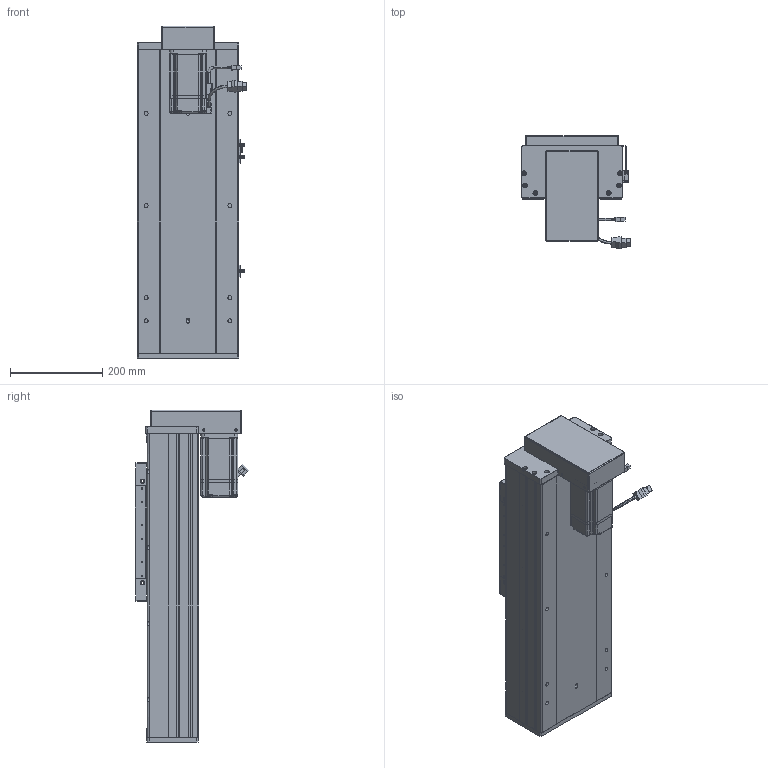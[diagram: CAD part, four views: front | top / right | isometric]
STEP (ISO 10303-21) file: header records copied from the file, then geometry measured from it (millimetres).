
FILE_DESCRIPTION (( 'STEP AP203' ), '1' );
FILE_NAME ('RY220F-L2525-300-BK.SLDASM_250.step', '2022-07-04T01:20:16', ( '' ), ( '' ), 'SwSTEP 2.0', 'SolidWorks 2016', '' );
FILE_SCHEMA (( 'CONFIG_CONTROL_DESIGN' ));
Length unit declared in the file: millimetre
Products named in the file (15): RY220F蛌殏菁釱-300_250; RY220F-蛌殏奻裔啣-300_250; RY220狟殏萇儂假蚾啣; RY220F-祥凄詩湍-蛌殏-300_250; RY220F-672覜茼んえ; 覜茼ん672; RY220F-L2525-300-BK.SLDASM_250; RY220狟殏萇儂欶; 侐源滅袉蝶; 怢湛750W_ECMA-CX0807ES; RY220F-滅鳥奻裔; 滅袉蝶18-24; RY220F-詩湍揤踡輸; RY220F臏賑釱25-32佪裝; RY220F綴裔啣
Assembly tree (21 placements, depth 2):
  RY220F-L2525-300-BK.SLDASM_250
    RY220F蛌殏菁釱-300_250
    RY220F-蛌殏奻裔啣-300_250  x2
    怢湛750W_ECMA-CX0807ES
    RY220F臏賑釱25-32佪裝
    RY220F-滅鳥奻裔
    滅袉蝶18-24  x3
    RY220F綴裔啣
    RY220F-祥凄詩湍-蛌殏-300_250
    RY220F-詩湍揤踡輸  x2
    覜茼ん672  x3
    RY220F-672覜茼んえ
    侐源滅袉蝶  x2
    RY220狟殏萇儂假蚾啣
    RY220狟殏萇儂欶
Bounding box: 237.27 x 247.24 x 721 mm (x, y, z)
Volume: 7665153.1 mm3; surface area: 1947011.8 mm2
Topology: 22 solids, 22 shells, 2129 faces, 5806 edges, 3657 vertices
Faces by surface type: cylinder 924, plane 906, cone 232, bspline 41, sphere 16, torus 10
Entity records: 65001 total; most frequent: CARTESIAN_POINT 18074, ORIENTED_EDGE 9562, DIRECTION 9115, EDGE_CURVE 4781, AXIS2_PLACEMENT_3D 3191, VERTEX_POINT 3099, VECTOR 2733, LINE 2733
